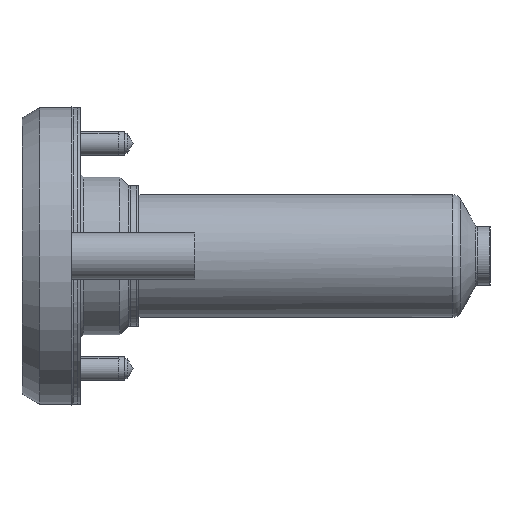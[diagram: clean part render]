
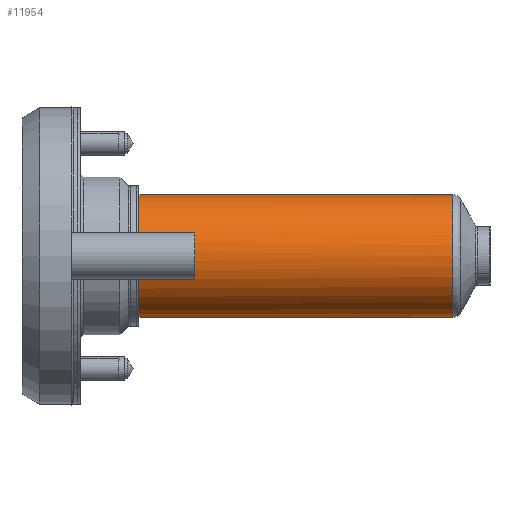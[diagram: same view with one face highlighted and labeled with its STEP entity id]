
A CAD part, left-side view. The second image highlights one B-rep face of the part: STEP entity #11954.
In plain terms, the highlighted cylindrical face has radius 21 mm (diameter 42 mm), a partial arc.
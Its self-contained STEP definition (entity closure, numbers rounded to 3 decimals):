
#54 = CARTESIAN_POINT ( 'NONE',  ( 0., -15., 0. ) ) ;
#426 = DIRECTION ( 'NONE',  ( 0., -1., 0. ) ) ;
#580 = CARTESIAN_POINT ( 'NONE',  ( 0., -122.228, 0. ) ) ;
#958 = CYLINDRICAL_SURFACE ( 'NONE', #4686, 21. ) ;
#1414 = CARTESIAN_POINT ( 'NONE',  ( -19.416, -15., -8. ) ) ;
#1671 = ORIENTED_EDGE ( 'NONE', *, *, #18322, .T. ) ;
#1798 = VERTEX_POINT ( 'NONE', #1414 ) ;
#2323 = VECTOR ( 'NONE', #6546, 1000. ) ;
#3288 = AXIS2_PLACEMENT_3D ( 'NONE', #54, #19558, #19418 ) ;
#3459 = CIRCLE ( 'NONE', #19158, 21. ) ;
#3733 = CARTESIAN_POINT ( 'NONE',  ( 0., -15., -21. ) ) ;
#4336 = VERTEX_POINT ( 'NONE', #3733 ) ;
#4419 = CARTESIAN_POINT ( 'NONE',  ( 0., -34., 0. ) ) ;
#4573 = EDGE_CURVE ( 'NONE', #13174, #25687, #3459, .T. ) ;
#4686 = AXIS2_PLACEMENT_3D ( 'NONE', #14106, #18868, #16279 ) ;
#5702 = DIRECTION ( 'NONE',  ( 0., 0., -1. ) ) ;
#6546 = DIRECTION ( 'NONE',  ( 0., -1., 0. ) ) ;
#7132 = CARTESIAN_POINT ( 'NONE',  ( 0., -122.228, -21. ) ) ;
#7204 = DIRECTION ( 'NONE',  ( 0., 0., -1. ) ) ;
#7254 = ORIENTED_EDGE ( 'NONE', *, *, #4573, .T. ) ;
#7599 = ORIENTED_EDGE ( 'NONE', *, *, #12778, .T. ) ;
#7988 = LINE ( 'NONE', #28381, #17669 ) ;
#8004 = EDGE_CURVE ( 'NONE', #12351, #13653, #8996, .T. ) ;
#8644 = CARTESIAN_POINT ( 'NONE',  ( -19.416, -93.07, -8. ) ) ;
#8996 = CIRCLE ( 'NONE', #28422, 21. ) ;
#9574 = ORIENTED_EDGE ( 'NONE', *, *, #11576, .T. ) ;
#11297 = VERTEX_POINT ( 'NONE', #16715 ) ;
#11576 = EDGE_CURVE ( 'NONE', #25687, #24500, #7988, .T. ) ;
#11954 = ADVANCED_FACE ( 'NONE', ( #23062 ), #958, .T. ) ;
#12351 = VERTEX_POINT ( 'NONE', #24428 ) ;
#12620 = EDGE_CURVE ( 'NONE', #1798, #11297, #18030, .T. ) ;
#12771 = ORIENTED_EDGE ( 'NONE', *, *, #8004, .F. ) ;
#12778 = EDGE_CURVE ( 'NONE', #1798, #4336, #20816, .T. ) ;
#13174 = VERTEX_POINT ( 'NONE', #20235 ) ;
#13653 = VERTEX_POINT ( 'NONE', #7132 ) ;
#14106 = CARTESIAN_POINT ( 'NONE',  ( 0., -93.07, 0. ) ) ;
#14267 = EDGE_LOOP ( 'NONE', ( #20193, #7254, #9574, #14549, #27938, #7599, #1671, #12771 ) ) ;
#14549 = ORIENTED_EDGE ( 'NONE', *, *, #28597, .F. ) ;
#14831 = EDGE_CURVE ( 'NONE', #13174, #12351, #28558, .T. ) ;
#15192 = AXIS2_PLACEMENT_3D ( 'NONE', #4419, #19888, #24090 ) ;
#15912 = DIRECTION ( 'NONE',  ( 0., -1., 0. ) ) ;
#16200 = CARTESIAN_POINT ( 'NONE',  ( 0., -93.07, -21. ) ) ;
#16279 = DIRECTION ( 'NONE',  ( 0., 0., -1. ) ) ;
#16715 = CARTESIAN_POINT ( 'NONE',  ( -19.416, -34., -8. ) ) ;
#16772 = CARTESIAN_POINT ( 'NONE',  ( -19.416, -34., 8. ) ) ;
#16880 = CARTESIAN_POINT ( 'NONE',  ( 0., -15., 0. ) ) ;
#17481 = DIRECTION ( 'NONE',  ( 0., -1., 0. ) ) ;
#17568 = CARTESIAN_POINT ( 'NONE',  ( 0., -93.07, 21. ) ) ;
#17669 = VECTOR ( 'NONE', #426, 1000. ) ;
#17795 = DIRECTION ( 'NONE',  ( 0., -1., 0. ) ) ;
#18030 = LINE ( 'NONE', #8644, #25918 ) ;
#18322 = EDGE_CURVE ( 'NONE', #4336, #13653, #25309, .T. ) ;
#18868 = DIRECTION ( 'NONE',  ( 0., -1., 0. ) ) ;
#19158 = AXIS2_PLACEMENT_3D ( 'NONE', #16880, #25395, #5702 ) ;
#19418 = DIRECTION ( 'NONE',  ( 0., 0., -1. ) ) ;
#19558 = DIRECTION ( 'NONE',  ( 0., -1., 0. ) ) ;
#19868 = CARTESIAN_POINT ( 'NONE',  ( -19.416, -15., 8. ) ) ;
#19888 = DIRECTION ( 'NONE',  ( 0., 1., 0. ) ) ;
#20193 = ORIENTED_EDGE ( 'NONE', *, *, #14831, .F. ) ;
#20235 = CARTESIAN_POINT ( 'NONE',  ( 0., -15., 21. ) ) ;
#20816 = CIRCLE ( 'NONE', #3288, 21. ) ;
#23062 = FACE_OUTER_BOUND ( 'NONE', #14267, .T. ) ;
#24090 = DIRECTION ( 'NONE',  ( 0., 0., 1. ) ) ;
#24428 = CARTESIAN_POINT ( 'NONE',  ( 0., -122.228, 21. ) ) ;
#24500 = VERTEX_POINT ( 'NONE', #16772 ) ;
#25309 = LINE ( 'NONE', #16200, #28590 ) ;
#25395 = DIRECTION ( 'NONE',  ( 0., -1., 0. ) ) ;
#25687 = VERTEX_POINT ( 'NONE', #19868 ) ;
#25918 = VECTOR ( 'NONE', #17481, 1000. ) ;
#27938 = ORIENTED_EDGE ( 'NONE', *, *, #12620, .F. ) ;
#28381 = CARTESIAN_POINT ( 'NONE',  ( -19.416, -93.07, 8. ) ) ;
#28422 = AXIS2_PLACEMENT_3D ( 'NONE', #580, #17795, #7204 ) ;
#28558 = LINE ( 'NONE', #17568, #2323 ) ;
#28589 = CIRCLE ( 'NONE', #15192, 21. ) ;
#28590 = VECTOR ( 'NONE', #15912, 1000. ) ;
#28597 = EDGE_CURVE ( 'NONE', #11297, #24500, #28589, .T. ) ;
